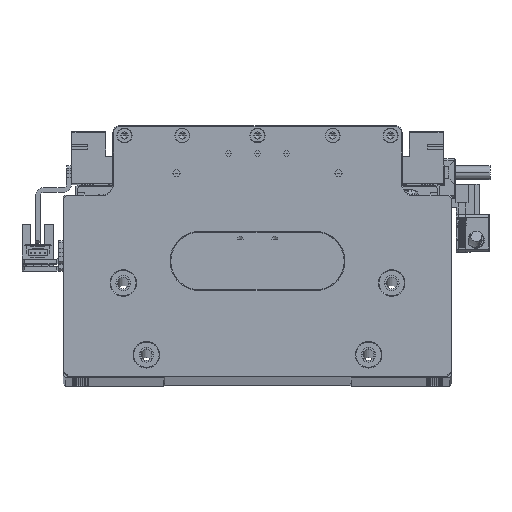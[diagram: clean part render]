
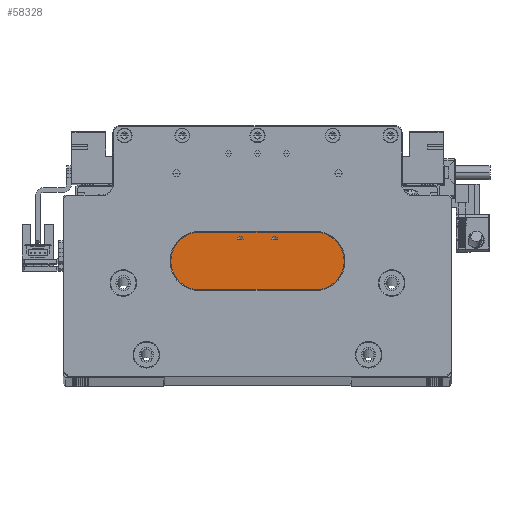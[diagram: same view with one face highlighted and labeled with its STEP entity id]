
A CAD part, top view. The second image highlights one B-rep face of the part: STEP entity #58328.
In plain terms, the highlighted planar face has unit normal (0, 0, 1).
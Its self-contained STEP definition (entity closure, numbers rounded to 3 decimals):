
#4615 = CARTESIAN_POINT ( 'NONE',  ( -45., 29., 90. ) ) ;
#5340 = DIRECTION ( 'NONE',  ( 0., 0., -1. ) ) ;
#5827 = EDGE_CURVE ( 'NONE', #56387, #118736, #105404, .T. ) ;
#7203 = DIRECTION ( 'NONE',  ( 0., -1., 0. ) ) ;
#7644 = CIRCLE ( 'NONE', #69716, 1.25 ) ;
#8098 = VERTEX_POINT ( 'NONE', #62123 ) ;
#9917 = EDGE_LOOP ( 'NONE', ( #26168, #87004 ) ) ;
#13662 = VECTOR ( 'NONE', #64171, 1000. ) ;
#16244 = EDGE_CURVE ( 'NONE', #118736, #56387, #7644, .T. ) ;
#16591 = CARTESIAN_POINT ( 'NONE',  ( 0., 61.2, 90. ) ) ;
#17232 = VERTEX_POINT ( 'NONE', #37673 ) ;
#18874 = VERTEX_POINT ( 'NONE', #26024 ) ;
#20474 = ORIENTED_EDGE ( 'NONE', *, *, #96953, .T. ) ;
#21262 = VECTOR ( 'NONE', #132193, 1000. ) ;
#26024 = CARTESIAN_POINT ( 'NONE',  ( -8.75, 61.2, 90. ) ) ;
#26168 = ORIENTED_EDGE ( 'NONE', *, *, #53110, .T. ) ;
#27669 = VERTEX_POINT ( 'NONE', #128941 ) ;
#30965 = DIRECTION ( 'NONE',  ( 0., -1., 0. ) ) ;
#32339 = CARTESIAN_POINT ( 'NONE',  ( 33.5, 69., 90. ) ) ;
#32527 = LINE ( 'NONE', #55906, #114257 ) ;
#32537 = VERTEX_POINT ( 'NONE', #131842 ) ;
#33292 = DIRECTION ( 'NONE',  ( 1., 0., 0. ) ) ;
#33751 = AXIS2_PLACEMENT_3D ( 'NONE', #71819, #5340, #82995 ) ;
#37417 = VECTOR ( 'NONE', #30965, 1000. ) ;
#37673 = CARTESIAN_POINT ( 'NONE',  ( 45., 61.2, 90. ) ) ;
#39216 = ORIENTED_EDGE ( 'NONE', *, *, #84526, .F. ) ;
#39398 = DIRECTION ( 'NONE',  ( -1., 0., 0. ) ) ;
#40092 = DIRECTION ( 'NONE',  ( -1., 0., 0. ) ) ;
#40574 = CARTESIAN_POINT ( 'NONE',  ( -45., 61.2, 90. ) ) ;
#43181 = LINE ( 'NONE', #141887, #13662 ) ;
#47703 = VECTOR ( 'NONE', #7203, 1000. ) ;
#47706 = ORIENTED_EDGE ( 'NONE', *, *, #5827, .T. ) ;
#48057 = EDGE_CURVE ( 'NONE', #78530, #116406, #67404, .T. ) ;
#48313 = CARTESIAN_POINT ( 'NONE',  ( 7.5, 61.2, 90. ) ) ;
#50115 = LINE ( 'NONE', #40574, #79580 ) ;
#52157 = EDGE_LOOP ( 'NONE', ( #103048, #47706 ) ) ;
#52863 = VECTOR ( 'NONE', #39398, 1000. ) ;
#53110 = EDGE_CURVE ( 'NONE', #18874, #32537, #140886, .T. ) ;
#54348 = CARTESIAN_POINT ( 'NONE',  ( 8.75, 61.2, 90. ) ) ;
#55906 = CARTESIAN_POINT ( 'NONE',  ( 0., 61.2, 90. ) ) ;
#56387 = VERTEX_POINT ( 'NONE', #54348 ) ;
#56519 = ORIENTED_EDGE ( 'NONE', *, *, #77157, .T. ) ;
#58328 = ADVANCED_FACE ( 'NONE', ( #107425, #136973, #77825 ), #88653, .T. ) ;
#59425 = DIRECTION ( 'NONE',  ( 1., 0., 0. ) ) ;
#62123 = CARTESIAN_POINT ( 'NONE',  ( -45., 29., 90. ) ) ;
#64171 = DIRECTION ( 'NONE',  ( -1., 0., 0. ) ) ;
#64568 = ORIENTED_EDGE ( 'NONE', *, *, #135286, .T. ) ;
#64626 = CARTESIAN_POINT ( 'NONE',  ( -33.5, 61.2, 90. ) ) ;
#65580 = CARTESIAN_POINT ( 'NONE',  ( 33.5, 69.2, 90. ) ) ;
#66308 = CARTESIAN_POINT ( 'NONE',  ( 0., 69.2, 90. ) ) ;
#66795 = DIRECTION ( 'NONE',  ( -1., 0., 0. ) ) ;
#67049 = DIRECTION ( 'NONE',  ( -1., 0., 0. ) ) ;
#67404 = LINE ( 'NONE', #87400, #126578 ) ;
#67769 = VECTOR ( 'NONE', #138160, 1000. ) ;
#69716 = AXIS2_PLACEMENT_3D ( 'NONE', #48313, #126043, #59425 ) ;
#71590 = CARTESIAN_POINT ( 'NONE',  ( 6.25, 61.2, 90. ) ) ;
#71819 = CARTESIAN_POINT ( 'NONE',  ( -7.5, 61.2, 90. ) ) ;
#76059 = VERTEX_POINT ( 'NONE', #32339 ) ;
#77157 = EDGE_CURVE ( 'NONE', #76059, #78530, #43181, .T. ) ;
#77160 = LINE ( 'NONE', #106787, #47703 ) ;
#77825 = FACE_BOUND ( 'NONE', #52157, .T. ) ;
#77952 = CARTESIAN_POINT ( 'NONE',  ( -45., 61.2, 90. ) ) ;
#78530 = VERTEX_POINT ( 'NONE', #132797 ) ;
#79580 = VECTOR ( 'NONE', #40092, 1000. ) ;
#80312 = LINE ( 'NONE', #65580, #21262 ) ;
#82995 = DIRECTION ( 'NONE',  ( 1., 0., 0. ) ) ;
#84526 = EDGE_CURVE ( 'NONE', #27669, #8098, #130422, .T. ) ;
#87004 = ORIENTED_EDGE ( 'NONE', *, *, #119805, .T. ) ;
#87400 = CARTESIAN_POINT ( 'NONE',  ( -33.5, 69.2, 90. ) ) ;
#88653 = PLANE ( 'NONE',  #99837 ) ;
#96953 = EDGE_CURVE ( 'NONE', #116406, #121796, #141470, .T. ) ;
#99837 = AXIS2_PLACEMENT_3D ( 'NONE', #66308, #99880, #33292 ) ;
#99880 = DIRECTION ( 'NONE',  ( 0., 0., 1. ) ) ;
#102162 = VERTEX_POINT ( 'NONE', #111239 ) ;
#103048 = ORIENTED_EDGE ( 'NONE', *, *, #16244, .T. ) ;
#105404 = LINE ( 'NONE', #77952, #128013 ) ;
#106787 = CARTESIAN_POINT ( 'NONE',  ( 45., 61.2, 90. ) ) ;
#107425 = FACE_OUTER_BOUND ( 'NONE', #140713, .T. ) ;
#107733 = CARTESIAN_POINT ( 'NONE',  ( -45., 69.2, 90. ) ) ;
#108801 = CARTESIAN_POINT ( 'NONE',  ( -45., 61.2, 90. ) ) ;
#109768 = DIRECTION ( 'NONE',  ( 0., -1., 0. ) ) ;
#110507 = EDGE_CURVE ( 'NONE', #17232, #102162, #32527, .T. ) ;
#111239 = CARTESIAN_POINT ( 'NONE',  ( 33.5, 61.2, 90. ) ) ;
#112670 = EDGE_CURVE ( 'NONE', #17232, #27669, #77160, .T. ) ;
#114257 = VECTOR ( 'NONE', #67049, 1000. ) ;
#116406 = VERTEX_POINT ( 'NONE', #64626 ) ;
#118736 = VERTEX_POINT ( 'NONE', #71590 ) ;
#119627 = ORIENTED_EDGE ( 'NONE', *, *, #112670, .F. ) ;
#119805 = EDGE_CURVE ( 'NONE', #32537, #18874, #50115, .T. ) ;
#121796 = VERTEX_POINT ( 'NONE', #108801 ) ;
#122719 = ORIENTED_EDGE ( 'NONE', *, *, #110507, .T. ) ;
#125806 = ORIENTED_EDGE ( 'NONE', *, *, #48057, .T. ) ;
#126043 = DIRECTION ( 'NONE',  ( 0., 0., -1. ) ) ;
#126578 = VECTOR ( 'NONE', #109768, 1000. ) ;
#128013 = VECTOR ( 'NONE', #66795, 1000. ) ;
#128941 = CARTESIAN_POINT ( 'NONE',  ( 45., 29., 90. ) ) ;
#129574 = LINE ( 'NONE', #107733, #37417 ) ;
#130422 = LINE ( 'NONE', #4615, #67769 ) ;
#131067 = ORIENTED_EDGE ( 'NONE', *, *, #137304, .T. ) ;
#131842 = CARTESIAN_POINT ( 'NONE',  ( -6.25, 61.2, 90. ) ) ;
#132193 = DIRECTION ( 'NONE',  ( 0., 1., 0. ) ) ;
#132797 = CARTESIAN_POINT ( 'NONE',  ( -33.5, 69., 90. ) ) ;
#135286 = EDGE_CURVE ( 'NONE', #121796, #8098, #129574, .T. ) ;
#136973 = FACE_BOUND ( 'NONE', #9917, .T. ) ;
#137304 = EDGE_CURVE ( 'NONE', #102162, #76059, #80312, .T. ) ;
#138160 = DIRECTION ( 'NONE',  ( -1., 0., 0. ) ) ;
#140713 = EDGE_LOOP ( 'NONE', ( #119627, #122719, #131067, #56519, #125806, #20474, #64568, #39216 ) ) ;
#140886 = CIRCLE ( 'NONE', #33751, 1.25 ) ;
#141470 = LINE ( 'NONE', #16591, #52863 ) ;
#141887 = CARTESIAN_POINT ( 'NONE',  ( 0., 69., 90. ) ) ;
